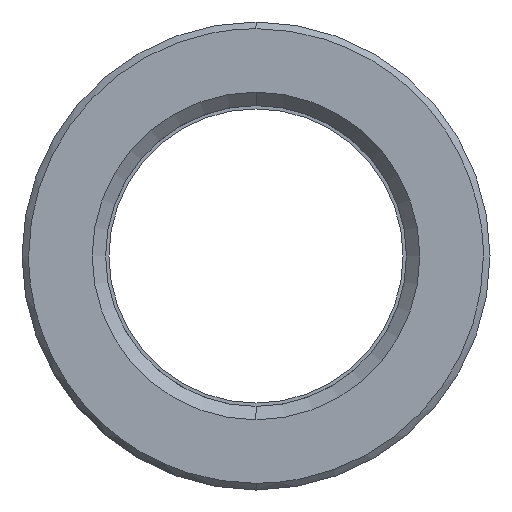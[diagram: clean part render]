
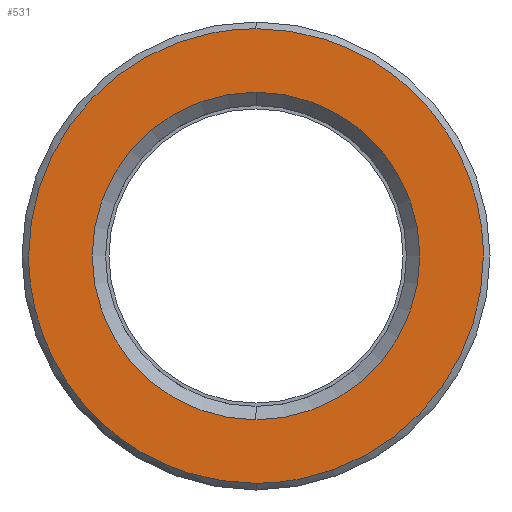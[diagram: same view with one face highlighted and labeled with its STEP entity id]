
A CAD part, left-side view. The second image highlights one B-rep face of the part: STEP entity #531.
In plain terms, the highlighted planar face has unit normal (-1, 0, 0).
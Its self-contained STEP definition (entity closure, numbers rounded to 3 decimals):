
#311=CARTESIAN_POINT('Axis2P3D Location',(0.,0.,0.)) ;
#315=CARTESIAN_POINT('Vertex',(0.,12.25,0.)) ;
#317=CARTESIAN_POINT('Vertex',(0.,0.,12.25)) ;
#320=CARTESIAN_POINT('Axis2P3D Location',(0.,0.,0.)) ;
#324=CARTESIAN_POINT('Vertex',(0.,0.,-12.25)) ;
#351=CARTESIAN_POINT('Axis2P3D Location',(0.,0.,0.)) ;
#355=CARTESIAN_POINT('Vertex',(0.,-12.25,0.)) ;
#358=CARTESIAN_POINT('Axis2P3D Location',(0.,0.,0.)) ;
#438=CARTESIAN_POINT('Axis2P3D Location',(0.,17.,0.)) ;
#444=CARTESIAN_POINT('Control Point',(0.,0.,-17.)) ;
#445=CARTESIAN_POINT('Control Point',(0.,1.123,-17.)) ;
#446=CARTESIAN_POINT('Control Point',(0.,2.246,-16.907)) ;
#447=CARTESIAN_POINT('Control Point',(0.,3.359,-16.722)) ;
#448=CARTESIAN_POINT('Control Point',(0.,6.023,-16.047)) ;
#449=CARTESIAN_POINT('Control Point',(0.,8.508,-14.851)) ;
#450=CARTESIAN_POINT('Control Point',(0.,9.884,-13.974)) ;
#451=CARTESIAN_POINT('Control Point',(0.,12.399,-11.909)) ;
#452=CARTESIAN_POINT('Control Point',(0.,14.361,-9.312)) ;
#453=CARTESIAN_POINT('Control Point',(0.,15.182,-7.903)) ;
#454=CARTESIAN_POINT('Control Point',(0.,16.222,-5.498)) ;
#455=CARTESIAN_POINT('Control Point',(0.,16.786,-2.951)) ;
#456=CARTESIAN_POINT('Control Point',(0.,16.929,-1.972)) ;
#457=CARTESIAN_POINT('Control Point',(0.,17.,-0.986)) ;
#458=CARTESIAN_POINT('Control Point',(0.,17.,0.)) ;
#459=CARTESIAN_POINT('Vertex',(0.,0.,-17.)) ;
#461=CARTESIAN_POINT('Vertex',(0.,17.,0.)) ;
#465=CARTESIAN_POINT('Control Point',(0.,-17.,0.)) ;
#466=CARTESIAN_POINT('Control Point',(0.,-17.,-1.616)) ;
#467=CARTESIAN_POINT('Control Point',(0.,-16.808,-3.232)) ;
#468=CARTESIAN_POINT('Control Point',(0.,-16.424,-4.817)) ;
#469=CARTESIAN_POINT('Control Point',(0.,-15.287,-7.867)) ;
#470=CARTESIAN_POINT('Control Point',(0.,-13.466,-10.565)) ;
#471=CARTESIAN_POINT('Control Point',(0.,-12.399,-11.799)) ;
#472=CARTESIAN_POINT('Control Point',(0.,-9.993,-13.99)) ;
#473=CARTESIAN_POINT('Control Point',(0.,-7.14,-15.556)) ;
#474=CARTESIAN_POINT('Control Point',(0.,-5.626,-16.165)) ;
#475=CARTESIAN_POINT('Control Point',(0.,-3.576,-16.717)) ;
#476=CARTESIAN_POINT('Control Point',(0.,-1.478,-16.946)) ;
#477=CARTESIAN_POINT('Control Point',(0.,-0.986,-16.982)) ;
#478=CARTESIAN_POINT('Control Point',(0.,-0.493,-17.)) ;
#479=CARTESIAN_POINT('Control Point',(0.,0.,-17.)) ;
#480=CARTESIAN_POINT('Vertex',(0.,-17.,0.)) ;
#484=CARTESIAN_POINT('Control Point',(0.,0.,17.)) ;
#485=CARTESIAN_POINT('Control Point',(0.,-1.123,17.)) ;
#486=CARTESIAN_POINT('Control Point',(0.,-2.246,16.907)) ;
#487=CARTESIAN_POINT('Control Point',(0.,-3.359,16.722)) ;
#488=CARTESIAN_POINT('Control Point',(0.,-6.023,16.047)) ;
#489=CARTESIAN_POINT('Control Point',(0.,-8.508,14.851)) ;
#490=CARTESIAN_POINT('Control Point',(0.,-9.884,13.974)) ;
#491=CARTESIAN_POINT('Control Point',(0.,-12.399,11.909)) ;
#492=CARTESIAN_POINT('Control Point',(0.,-14.361,9.312)) ;
#493=CARTESIAN_POINT('Control Point',(0.,-15.182,7.903)) ;
#494=CARTESIAN_POINT('Control Point',(0.,-16.222,5.498)) ;
#495=CARTESIAN_POINT('Control Point',(0.,-16.786,2.951)) ;
#496=CARTESIAN_POINT('Control Point',(0.,-16.929,1.972)) ;
#497=CARTESIAN_POINT('Control Point',(0.,-17.,0.986)) ;
#498=CARTESIAN_POINT('Control Point',(0.,-17.,0.)) ;
#499=CARTESIAN_POINT('Vertex',(0.,0.,17.)) ;
#503=CARTESIAN_POINT('Control Point',(0.,17.,0.)) ;
#504=CARTESIAN_POINT('Control Point',(0.,17.,1.616)) ;
#505=CARTESIAN_POINT('Control Point',(0.,16.808,3.232)) ;
#506=CARTESIAN_POINT('Control Point',(0.,16.424,4.817)) ;
#507=CARTESIAN_POINT('Control Point',(0.,15.287,7.867)) ;
#508=CARTESIAN_POINT('Control Point',(0.,13.466,10.565)) ;
#509=CARTESIAN_POINT('Control Point',(0.,12.399,11.799)) ;
#510=CARTESIAN_POINT('Control Point',(0.,9.993,13.99)) ;
#511=CARTESIAN_POINT('Control Point',(0.,7.14,15.556)) ;
#512=CARTESIAN_POINT('Control Point',(0.,5.626,16.165)) ;
#513=CARTESIAN_POINT('Control Point',(0.,3.576,16.717)) ;
#514=CARTESIAN_POINT('Control Point',(0.,1.478,16.946)) ;
#515=CARTESIAN_POINT('Control Point',(0.,0.986,16.982)) ;
#516=CARTESIAN_POINT('Control Point',(0.,0.493,17.)) ;
#517=CARTESIAN_POINT('Control Point',(0.,0.,17.)) ;
#312=DIRECTION('Axis2P3D Direction',(-1.,0.,0.)) ;
#321=DIRECTION('Axis2P3D Direction',(-1.,0.,0.)) ;
#352=DIRECTION('Axis2P3D Direction',(-1.,0.,0.)) ;
#359=DIRECTION('Axis2P3D Direction',(-1.,0.,0.)) ;
#439=DIRECTION('Axis2P3D Direction',(-1.,0.,0.)) ;
#440=DIRECTION('Axis2P3D XDirection',(0.,0.,1.)) ;
#313=AXIS2_PLACEMENT_3D('Circle Axis2P3D',#311,#312,$) ;
#322=AXIS2_PLACEMENT_3D('Circle Axis2P3D',#320,#321,$) ;
#353=AXIS2_PLACEMENT_3D('Circle Axis2P3D',#351,#352,$) ;
#360=AXIS2_PLACEMENT_3D('Circle Axis2P3D',#358,#359,$) ;
#441=AXIS2_PLACEMENT_3D('Plane Axis2P3D',#438,#439,#440) ;
#520=ORIENTED_EDGE('',*,*,#463,.F.) ;
#521=ORIENTED_EDGE('',*,*,#482,.F.) ;
#522=ORIENTED_EDGE('',*,*,#501,.F.) ;
#523=ORIENTED_EDGE('',*,*,#518,.F.) ;
#526=ORIENTED_EDGE('',*,*,#319,.T.) ;
#527=ORIENTED_EDGE('',*,*,#362,.T.) ;
#528=ORIENTED_EDGE('',*,*,#357,.T.) ;
#529=ORIENTED_EDGE('',*,*,#326,.T.) ;
#530=FACE_BOUND('',#525,.T.) ;
#531=ADVANCED_FACE('553-22X86',(#524,#530),#442,.T.) ;
#443=B_SPLINE_CURVE_WITH_KNOTS('',5,(#444,#445,#446,#447,#448,#449,#450,#451,#452,#453,#454,#455,#456,#457,#458),.UNSPECIFIED.,.F.,.U.,(6,3,3,3,6),(37.764,45.705,57.131,68.557,75.528),.UNSPECIFIED.) ;
#464=B_SPLINE_CURVE_WITH_KNOTS('',5,(#465,#466,#467,#468,#469,#470,#471,#472,#473,#474,#475,#476,#477,#478,#479),.UNSPECIFIED.,.F.,.U.,(6,3,3,3,6),(0.,11.426,22.852,34.279,37.764),.UNSPECIFIED.) ;
#483=B_SPLINE_CURVE_WITH_KNOTS('',5,(#484,#485,#486,#487,#488,#489,#490,#491,#492,#493,#494,#495,#496,#497,#498),.UNSPECIFIED.,.F.,.U.,(6,3,3,3,6),(37.764,45.705,57.131,68.557,75.528),.UNSPECIFIED.) ;
#502=B_SPLINE_CURVE_WITH_KNOTS('',5,(#503,#504,#505,#506,#507,#508,#509,#510,#511,#512,#513,#514,#515,#516,#517),.UNSPECIFIED.,.F.,.U.,(6,3,3,3,6),(0.,11.426,22.852,34.279,37.764),.UNSPECIFIED.) ;
#314=CIRCLE('generated circle',#313,12.25) ;
#323=CIRCLE('generated circle',#322,12.25) ;
#354=CIRCLE('generated circle',#353,12.25) ;
#361=CIRCLE('generated circle',#360,12.25) ;
#319=EDGE_CURVE('',#316,#318,#314,.F.) ;
#326=EDGE_CURVE('',#325,#316,#323,.F.) ;
#357=EDGE_CURVE('',#356,#325,#354,.F.) ;
#362=EDGE_CURVE('',#318,#356,#361,.F.) ;
#463=EDGE_CURVE('',#460,#462,#443,.T.) ;
#482=EDGE_CURVE('',#481,#460,#464,.T.) ;
#501=EDGE_CURVE('',#500,#481,#483,.T.) ;
#518=EDGE_CURVE('',#462,#500,#502,.T.) ;
#519=EDGE_LOOP('',(#520,#521,#522,#523)) ;
#525=EDGE_LOOP('',(#526,#527,#528,#529)) ;
#524=FACE_OUTER_BOUND('',#519,.T.) ;
#442=PLANE('Plane',#441) ;
#316=VERTEX_POINT('',#315) ;
#318=VERTEX_POINT('',#317) ;
#325=VERTEX_POINT('',#324) ;
#356=VERTEX_POINT('',#355) ;
#460=VERTEX_POINT('',#459) ;
#462=VERTEX_POINT('',#461) ;
#481=VERTEX_POINT('',#480) ;
#500=VERTEX_POINT('',#499) ;
